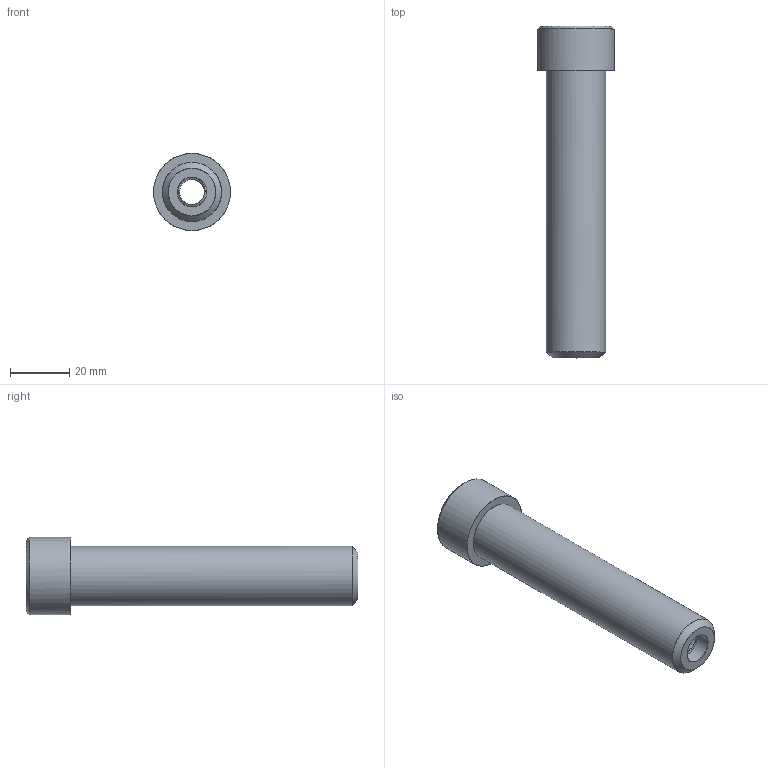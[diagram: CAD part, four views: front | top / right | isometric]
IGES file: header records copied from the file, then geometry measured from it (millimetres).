
Start section: C
Global section: file name: front-axle.igs; native system: By Siemens PLM Incorporated; preprocessor: XPlus GENERIC/IGES 22.0.50; author: Author; organization: Title; date: 20200703.120055; units: millimetre
Bounding box: 26 x 112 x 26 mm (x, y, z)
Surface area: 12558 mm2 (no closed solid volume)
Topology: 0 solids, 0 shells, 49 faces, 2146 edges, 2146 vertices
Faces by surface type: bspline 49
